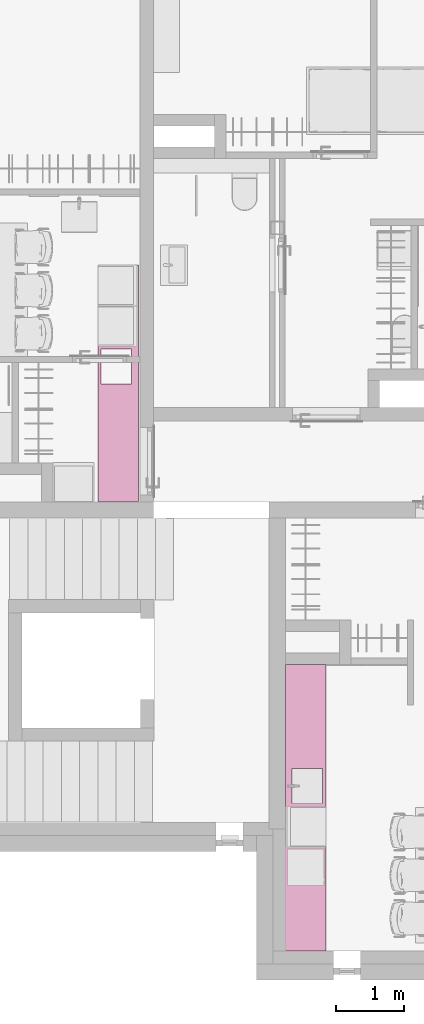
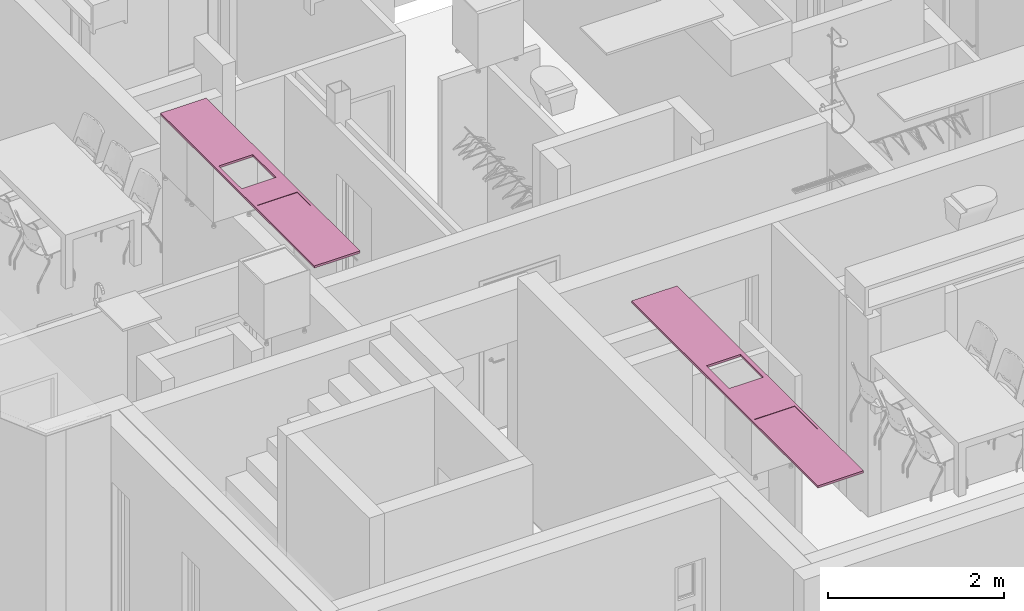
# One storey, part 38 of 68: 2 furnishings.
"""IFC2X3 building model written with IfcOpenShell, lengths in millimetres."""

from ifc_helpers import new_model, entity, si_unit, converted_unit, direction, frame, origin, place, context, subcontext, project, spatial, faceted_brep, source, transform, mapped, material, type_object, type_shapes, element, save


model = new_model("IFC2X3")

# Units and contexts
model_context = context("Model", 3, precision=0.01, world=origin(), true_north=direction((6.123233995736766e-17, 1.0)))
plan_context = context("Plan", 3, precision=0.01, world=origin(), true_north=direction((6.123233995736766e-17, 1.0)))
body_context = subcontext(model_context, "Body", "Model", "MODEL_VIEW")
ifc_project = project(units=[si_unit("LENGTHUNIT", "METRE", prefix="MILLI"), converted_unit("PLANEANGLEUNIT", "DEGREE", entity("IfcPlaneAngleMeasure", 0.017453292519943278), si_unit("PLANEANGLEUNIT", "RADIAN"), dimensions=[0, 0, 0, 0, 0, 0, 0]), si_unit("AREAUNIT", "SQUARE_METRE")], contexts=[model_context, plan_context])

# Site, building, storey, space
site_placement = place(None, origin())
site = spatial("IfcSite", under=ifc_project, at=site_placement, Name="Default", CompositionType="ELEMENT")
building_placement = place(site_placement, origin())
building = spatial("IfcBuilding", under=site, at=building_placement, CompositionType="ELEMENT")
storey_placement = place(building_placement, frame((0.0, 0.0, 6295.0)))
storey = spatial("IfcBuildingStorey", under=building, at=storey_placement, Name="3K", CompositionType="ELEMENT", Elevation=6294.999999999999)
space_1_placement = place(storey_placement, origin())
space_1 = spatial("IfcSpace", under=storey, at=space_1_placement, Name="3-5.1", CompositionType="ELEMENT", InteriorOrExteriorSpace="INTERNAL")

# Furnishing
ifc_material = material(Name="<Unnamed>")
furniture_type_1 = type_object("IfcFurnitureType", Name="HR_Casework_Work-surface_Generic_Rectangular_v1:Default", AssemblyPlace="NOTDEFINED", material=ifc_material)
shared_shape_1 = source(origin(), body_context, "Body", "Brep", [
    faceted_brep([(2520.0, 10148.499959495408, 900.0), (2520.0, 6644.999959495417, 900.0), (3120.0, 6644.999959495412, 900.0), (3120.0, 10148.499959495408, 900.0), (2555.0, 7483.499959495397, 900.0), (2555.0, 8013.499959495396, 900.0), (3085.0, 8013.499959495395, 900.0), (3085.0, 7483.499959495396, 900.0), (2570.0, 8388.499959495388, 900.0), (2570.0, 8908.4999594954, 900.0), (3020.0, 8908.499959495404, 900.0), (3020.0, 8388.499959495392, 900.0), (2520.0, 10148.499959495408, 870.0), (3120.0, 10148.499959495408, 870.0), (3120.0, 6644.999959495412, 870.0), (2520.0, 6644.999959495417, 870.0), (2570.0, 8908.4999594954, 870.0), (2570.0, 8388.499959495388, 870.0), (3020.0, 8388.499959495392, 870.0), (3020.0, 8908.499959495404, 870.0), (2555.0, 8013.499959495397, 895.0), (2555.0, 7483.499959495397, 895.0), (3085.0, 7483.499959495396, 895.0), (3085.0, 8013.499959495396, 895.0)], [[[0, 1, 2, 3], [4, 5, 6, 7], [8, 9, 10, 11]], [[12, 13, 14, 15], [16, 17, 18, 19]], [[1, 0, 12, 15]], [[2, 1, 15, 14]], [[3, 2, 14, 13]], [[0, 3, 13, 12]], [[20, 21, 22, 23]], [[21, 20, 5, 4]], [[22, 21, 4, 7]], [[23, 22, 7, 6]], [[20, 23, 6, 5]], [[16, 9, 8, 17]], [[17, 8, 11, 18]], [[18, 11, 10, 19]], [[9, 16, 19, 10]]]),
])
type_shapes(furniture_type_1, [shared_shape_1])
furnishing_1_placement = place(space_1_placement, frame((0.0, 0.0, 3170.000076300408)))
element("IfcFurnishingElement", 1, at=furnishing_1_placement, inside=space_1, type_object=furniture_type_1, material=ifc_material, Name="HR_Casework_Work-surface_Generic_Rectangular_v1:Default", ObjectType="HR_Casework_Work-surface_Generic_Rectangular_v1:Default", context=body_context, shape_type="MappedRepresentation", body=[
    mapped(shared_shape_1, transform((0.0, 0.0, 0.0), scale=1.0)),
])

# Space
space_2_placement = place(storey_placement, origin())
space_2 = spatial("IfcSpace", under=storey, at=space_2_placement, Name="3-8.2", CompositionType="ELEMENT", InteriorOrExteriorSpace="INTERNAL")

# Furnishing
furniture_type_2 = type_object("IfcFurnitureType", Name="HR_Casework_Work-surface_Generic_Rectangular_v1:Default", AssemblyPlace="NOTDEFINED", material=ifc_material)
shared_shape_2 = source(origin(), body_context, "Body", "Brep", [
    faceted_brep([(5900.0, 0.0, 900.0), (5900.0, 4240.0, 900.0), (5300.0, 4240.0, 900.0), (5300.0, 0.0, 900.0), (5844.995060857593, 2700.0, 900.0), (5844.995060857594, 2180.0, 900.0), (5394.995060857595, 2180.0, 900.0), (5394.995060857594, 2700.0, 900.0), (5865.0, 1505.000040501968, 900.0), (5865.0, 975.0000405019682, 900.0), (5335.0, 975.0000405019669, 900.0), (5335.0, 1505.0000405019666, 900.0), (5900.0, 0.0, 870.0), (5300.0, 0.0, 870.0), (5300.0, 4240.0, 870.0), (5900.0, 4240.0, 870.0), (5844.995060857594, 2180.0, 870.0), (5844.995060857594, 2700.0, 870.0), (5394.995060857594, 2700.0, 870.0), (5394.995060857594, 2180.0, 870.0), (5865.0, 975.0000405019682, 895.0), (5865.0, 1505.000040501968, 895.0), (5335.0, 1505.0000405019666, 895.0), (5335.0, 975.0000405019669, 895.0)], [[[0, 1, 2, 3], [4, 5, 6, 7], [8, 9, 10, 11]], [[12, 13, 14, 15], [16, 17, 18, 19]], [[1, 0, 12, 15]], [[2, 1, 15, 14]], [[3, 2, 14, 13]], [[0, 3, 13, 12]], [[16, 5, 4, 17]], [[17, 4, 7, 18]], [[18, 7, 6, 19]], [[5, 16, 19, 6]], [[20, 21, 22, 23]], [[21, 20, 9, 8]], [[22, 21, 8, 11]], [[23, 22, 11, 10]], [[20, 23, 10, 9]]]),
])
type_shapes(furniture_type_2, [shared_shape_2])
furnishing_2_placement = place(space_2_placement, frame((0.0, 0.0, 3170.000076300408)))
element("IfcFurnishingElement", 2, at=furnishing_2_placement, inside=space_2, type_object=furniture_type_2, material=ifc_material, Name="HR_Casework_Work-surface_Generic_Rectangular_v1:Default", ObjectType="HR_Casework_Work-surface_Generic_Rectangular_v1:Default", context=body_context, shape_type="MappedRepresentation", body=[
    mapped(shared_shape_2, transform((0.0, 0.0, 0.0), scale=1.0)),
])

save(model, "model.ifc")
